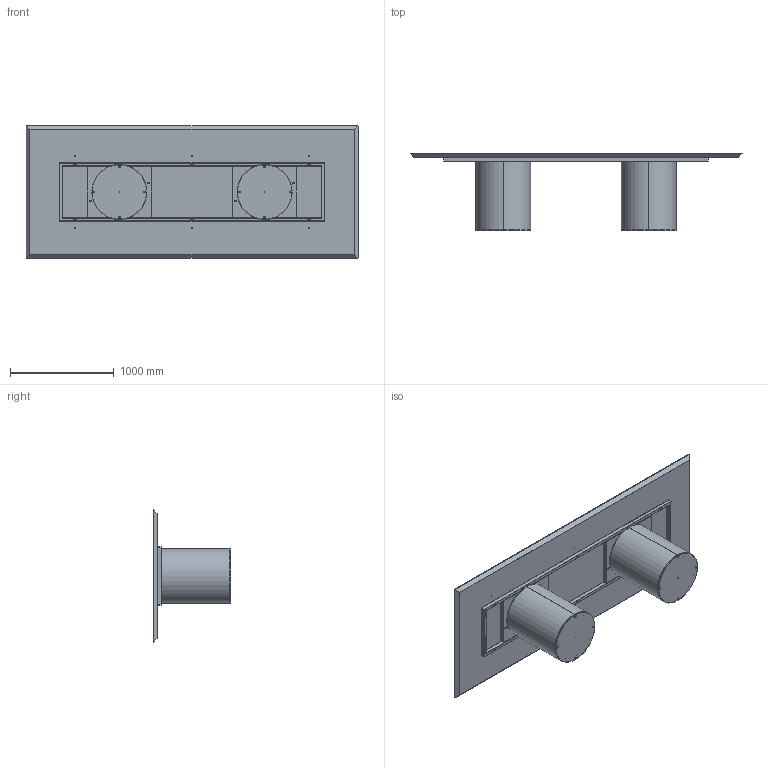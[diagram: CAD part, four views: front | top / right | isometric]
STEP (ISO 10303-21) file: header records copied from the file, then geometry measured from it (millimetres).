
FILE_DESCRIPTION (( 'STEP AP203' ), '1' );
FILE_NAME ('CI28W.STEP', '2024-08-08T07:11:12', ( '' ), ( '' ), 'SwSTEP 2.0', 'SolidWorks 2022', '' );
FILE_SCHEMA (( 'CONFIG_CONTROL_DESIGN' ));
Length unit declared in the file: millimetre
Products named in the file (12): TTAV03_02-06-VASSOIO IRRIGIDIMENTO TELAIO UNIVERSALE RETTANGOLARE; W2XCMXX-00-Piani Rettangolari in legno_3200 x 1280; TTAV03_01-06-RING TUBO TELAIO UNIVERSALE X TAVOLI 300-340cm; CI28W; C2B000000_02-01-ZAVORRA IN FERRO D.530mm; COLLO TELAIO UNIVERSALE TTAV03 CON FERRAMENTA_MTG TOP LEGNO-MARMO-KING; M8xXXmm_M8x55mm; C2B000000-03-CILINDRO BASE D.530mm_Normale; M8xXXmm_hex_M8X20mm; C2B000000_01-00-struttura cilindro D.530mm; rondella M8_8X24; TTAV03-06-TELAIO UNIVERSALE X TAVOLI 300-340cm
Assembly tree (26 placements, depth 4):
  CI28W
    C2B000000-03-CILINDRO BASE D.530mm_Normale  x2
      C2B000000_01-00-struttura cilindro D.530mm
      C2B000000_02-01-ZAVORRA IN FERRO D.530mm
      M8xXXmm_hex_M8X20mm
    COLLO TELAIO UNIVERSALE TTAV03 CON FERRAMENTA_MTG TOP LEGNO-MARMO-KING
      TTAV03-06-TELAIO UNIVERSALE X TAVOLI 300-340cm
        TTAV03_01-06-RING TUBO TELAIO UNIVERSALE X TAVOLI 300-340cm
        TTAV03_02-06-VASSOIO IRRIGIDIMENTO TELAIO UNIVERSALE RETTANGOLARE  x2
      rondella M8_8X24  x6
      M8xXXmm_M8x55mm  x6
    W2XCMXX-00-Piani Rettangolari in legno_3200 x 1280
Bounding box: 3200 x 748 x 1280 mm (x, y, z)
Volume: 164839645.4 mm3; surface area: 17420748.9 mm2
Topology: 34 solids, 34 shells, 1216 faces, 2784 edges, 1596 vertices
Faces by surface type: plane 514, cylinder 392, cone 186, torus 88, sphere 36
Entity records: 16227 total; most frequent: DIRECTION 2675, CARTESIAN_POINT 2549, ORIENTED_EDGE 2352, EDGE_CURVE 1176, AXIS2_PLACEMENT_3D 1005, VERTEX_POINT 713, VECTOR 665, LINE 665
